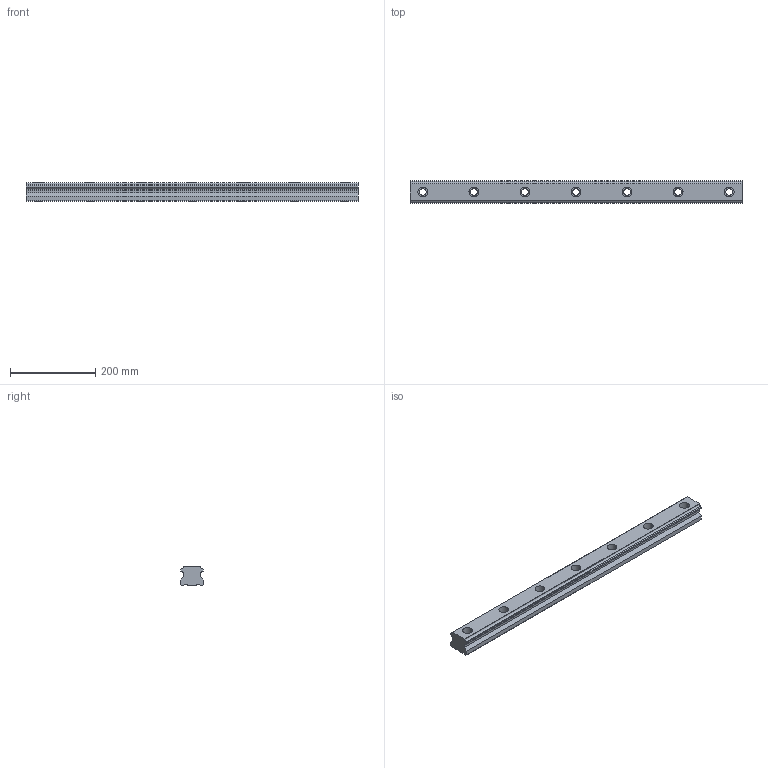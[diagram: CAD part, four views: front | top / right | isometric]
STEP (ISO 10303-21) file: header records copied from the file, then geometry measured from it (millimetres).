
FILE_DESCRIPTION(('starvars output'),'2;1');
FILE_NAME('cv20190626220417000039839.stp','22:04:17 2019/06/26',( 'Thomas Industrial Network Germany GmbH'),( 'Thomas Industrial Network Germany GmbH'),'unknown preprocess','ACIS' ,'unknown authorization');
FILE_SCHEMA(('CONFIG_CONTROL_DESIGN {UNKNOWN IMPLEMENTATION LEVEL}'));
Length unit declared in the file: millimetre
Products named in the file (1): PRODUCT_ID_1
Bounding box: 780 x 53 x 44 mm (x, y, z)
Volume: 1495004.5 mm3; surface area: 176291.1 mm2
Topology: 1 solids, 1 shells, 69 faces, 180 edges, 120 vertices
Faces by surface type: plane 37, cylinder 32
Entity records: 2041 total; most frequent: ORIENTED_EDGE 360, CARTESIAN_POINT 327, DIRECTION 298, EDGE_CURVE 180, VERTEX_POINT 120, VECTOR 116, LINE 116, AXIS2_PLACEMENT_3D 91
